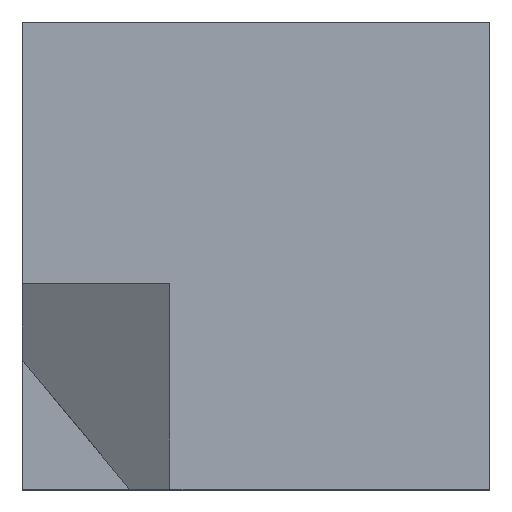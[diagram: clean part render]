
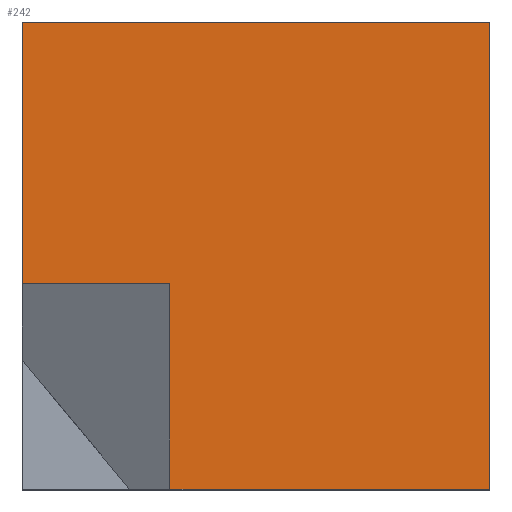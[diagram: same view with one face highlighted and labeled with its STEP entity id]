
A CAD part, top view. The second image highlights one B-rep face of the part: STEP entity #242.
In plain terms, the highlighted planar face has unit normal (0, 0, 1).
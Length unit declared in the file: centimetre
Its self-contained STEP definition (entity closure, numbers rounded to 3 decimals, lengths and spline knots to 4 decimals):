
#5 = CARTESIAN_POINT ( 'NONE',  ( 0., 0., 1000. ) ) ;
#23 = EDGE_CURVE ( 'NONE', #506, #214, #58, .T. ) ;
#46 = DIRECTION ( 'NONE',  ( 0., -1., 0. ) ) ;
#49 = VECTOR ( 'NONE', #178, 100. ) ;
#58 = LINE ( 'NONE', #144, #223 ) ;
#64 = LINE ( 'NONE', #319, #221 ) ;
#76 = VECTOR ( 'NONE', #532, 100. ) ;
#88 = VECTOR ( 'NONE', #46, 100. ) ;
#98 = VECTOR ( 'NONE', #268, 100. ) ;
#117 = CARTESIAN_POINT ( 'NONE',  ( 0., 0., 1000. ) ) ;
#120 = VERTEX_POINT ( 'NONE', #213 ) ;
#124 = AXIS2_PLACEMENT_3D ( 'NONE', #117, #303, #259 ) ;
#125 = ORIENTED_EDGE ( 'NONE', *, *, #405, .T. ) ;
#144 = CARTESIAN_POINT ( 'NONE',  ( 0., 1000., 1000. ) ) ;
#145 = CARTESIAN_POINT ( 'NONE',  ( 315.8662, 0., 1000. ) ) ;
#151 = DIRECTION ( 'NONE',  ( -1., 0., 0. ) ) ;
#171 = CARTESIAN_POINT ( 'NONE',  ( 0., 1000., 1000. ) ) ;
#173 = CARTESIAN_POINT ( 'NONE',  ( 315.8662, 440.4335, 1000. ) ) ;
#178 = DIRECTION ( 'NONE',  ( 0., 1., 0. ) ) ;
#190 = CARTESIAN_POINT ( 'NONE',  ( 1000., 1000., 1000. ) ) ;
#213 = CARTESIAN_POINT ( 'NONE',  ( 1000., 0., 1000. ) ) ;
#214 = VERTEX_POINT ( 'NONE', #171 ) ;
#221 = VECTOR ( 'NONE', #151, 100. ) ;
#223 = VECTOR ( 'NONE', #324, 100. ) ;
#228 = LINE ( 'NONE', #5, #98 ) ;
#242 = ADVANCED_FACE ( 'NONE', ( #386 ), #335, .T. ) ;
#255 = ORIENTED_EDGE ( 'NONE', *, *, #486, .T. ) ;
#259 = DIRECTION ( 'NONE',  ( 1., 0., 0. ) ) ;
#268 = DIRECTION ( 'NONE',  ( 1., 0., 0. ) ) ;
#274 = ORIENTED_EDGE ( 'NONE', *, *, #23, .T. ) ;
#294 = VERTEX_POINT ( 'NONE', #173 ) ;
#303 = DIRECTION ( 'NONE',  ( 0., 0., 1. ) ) ;
#319 = CARTESIAN_POINT ( 'NONE',  ( 315.8662, 440.4335, 1000. ) ) ;
#324 = DIRECTION ( 'NONE',  ( -1., 0., 0. ) ) ;
#335 = PLANE ( 'NONE',  #124 ) ;
#353 = EDGE_CURVE ( 'NONE', #542, #120, #228, .T. ) ;
#356 = ORIENTED_EDGE ( 'NONE', *, *, #353, .T. ) ;
#362 = CARTESIAN_POINT ( 'NONE',  ( 315.8662, 440.4335, 1000. ) ) ;
#373 = EDGE_CURVE ( 'NONE', #120, #506, #477, .T. ) ;
#386 = FACE_OUTER_BOUND ( 'NONE', #516, .T. ) ;
#405 = EDGE_CURVE ( 'NONE', #214, #410, #432, .T. ) ;
#410 = VERTEX_POINT ( 'NONE', #452 ) ;
#432 = LINE ( 'NONE', #508, #88 ) ;
#451 = ORIENTED_EDGE ( 'NONE', *, *, #514, .F. ) ;
#452 = CARTESIAN_POINT ( 'NONE',  ( 0., 440.4335, 1000. ) ) ;
#472 = CARTESIAN_POINT ( 'NONE',  ( 1000., 1000., 1000. ) ) ;
#477 = LINE ( 'NONE', #472, #49 ) ;
#481 = ORIENTED_EDGE ( 'NONE', *, *, #373, .T. ) ;
#486 = EDGE_CURVE ( 'NONE', #294, #542, #490, .T. ) ;
#490 = LINE ( 'NONE', #362, #76 ) ;
#506 = VERTEX_POINT ( 'NONE', #190 ) ;
#508 = CARTESIAN_POINT ( 'NONE',  ( 0., 1000., 1000. ) ) ;
#514 = EDGE_CURVE ( 'NONE', #294, #410, #64, .T. ) ;
#516 = EDGE_LOOP ( 'NONE', ( #255, #356, #481, #274, #125, #451 ) ) ;
#532 = DIRECTION ( 'NONE',  ( 0., -1., 0. ) ) ;
#542 = VERTEX_POINT ( 'NONE', #145 ) ;
